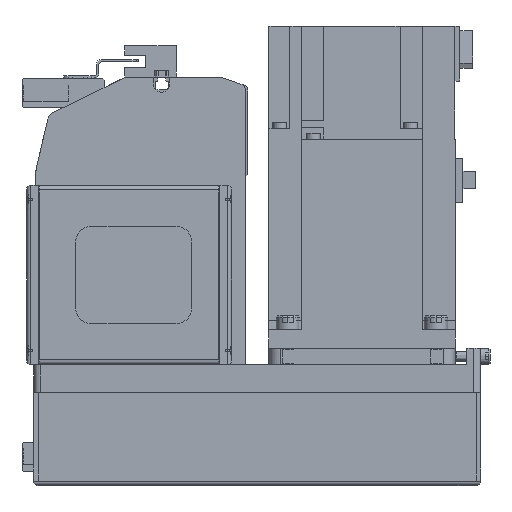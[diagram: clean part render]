
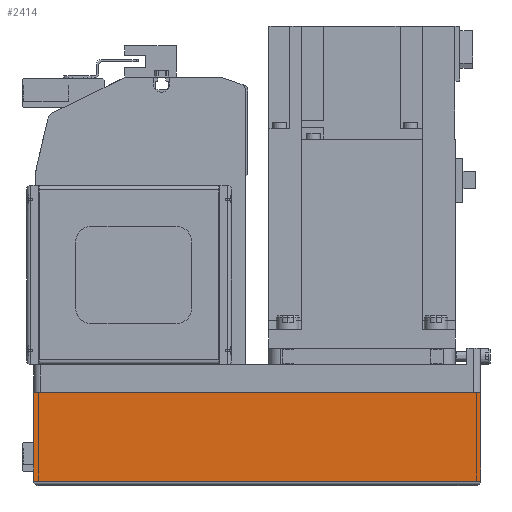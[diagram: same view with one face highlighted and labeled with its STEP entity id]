
A CAD part, left-side view. The second image highlights one B-rep face of the part: STEP entity #2414.
In plain terms, the highlighted planar face has unit normal (-1, 0, 0) as drawn and (0, 1, 0) by its records, which use the part's own axes.
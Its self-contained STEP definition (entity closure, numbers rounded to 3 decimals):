
#2414 = ADVANCED_FACE( '', ( #5420 ), #5421, .T. );
#5420 = FACE_OUTER_BOUND( '', #9038, .T. );
#5421 = PLANE( '', #9039 );
#9038 = EDGE_LOOP( '', ( #15932, #15933, #15934, #15935 ) );
#9039 = AXIS2_PLACEMENT_3D( '', #15936, #15937, #15938 );
#15932 = ORIENTED_EDGE( '', *, *, #23000, .F. );
#15933 = ORIENTED_EDGE( '', *, *, #22275, .F. );
#15934 = ORIENTED_EDGE( '', *, *, #23001, .T. );
#15935 = ORIENTED_EDGE( '', *, *, #20364, .T. );
#15936 = CARTESIAN_POINT( '', ( -192., 40., -50. ) );
#15937 = DIRECTION( '', ( 0., 1., 0. ) );
#15938 = DIRECTION( '', ( 0., 0., 1. ) );
#20364 = EDGE_CURVE( '', #24123, #24121, #24124, .T. );
#22275 = EDGE_CURVE( '', #27308, #27311, #27312, .T. );
#23000 = EDGE_CURVE( '', #27311, #24121, #28350, .T. );
#23001 = EDGE_CURVE( '', #27308, #24123, #28351, .T. );
#24121 = VERTEX_POINT( '', #29740 );
#24123 = VERTEX_POINT( '', #29743 );
#24124 = LINE( '', #29744, #29745 );
#27308 = VERTEX_POINT( '', #34660 );
#27311 = VERTEX_POINT( '', #34663 );
#27312 = LINE( '', #34664, #34665 );
#28350 = LINE( '', #36295, #36296 );
#28351 = LINE( '', #36297, #36298 );
#29740 = CARTESIAN_POINT( '', ( 0., 40., -12.1 ) );
#29743 = CARTESIAN_POINT( '', ( -192., 40., -12.1 ) );
#29744 = CARTESIAN_POINT( '', ( -192., 40., -12.1 ) );
#29745 = VECTOR( '', #38190, 1000. );
#34660 = CARTESIAN_POINT( '', ( -192., 40., -50. ) );
#34663 = CARTESIAN_POINT( '', ( 0., 40., -50. ) );
#34664 = CARTESIAN_POINT( '', ( -192., 40., -50. ) );
#34665 = VECTOR( '', #40721, 1000. );
#36295 = CARTESIAN_POINT( '', ( 0., 40., -50. ) );
#36296 = VECTOR( '', #41550, 1000. );
#36297 = CARTESIAN_POINT( '', ( -192., 40., -50. ) );
#36298 = VECTOR( '', #41551, 1000. );
#38190 = DIRECTION( '', ( 1., 0., 0. ) );
#40721 = DIRECTION( '', ( 1., 0., 0. ) );
#41550 = DIRECTION( '', ( 0., 0., 1. ) );
#41551 = DIRECTION( '', ( 0., 0., 1. ) );
